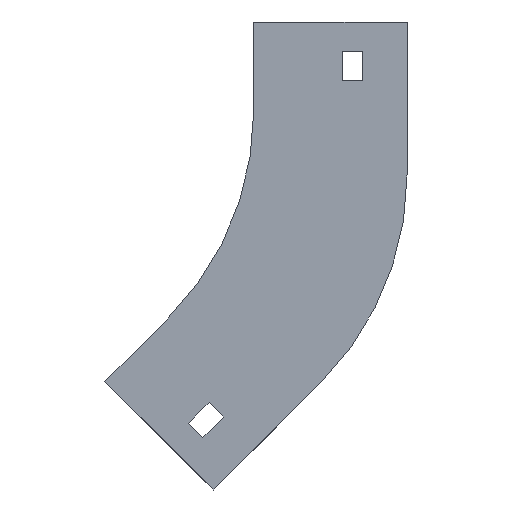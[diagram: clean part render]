
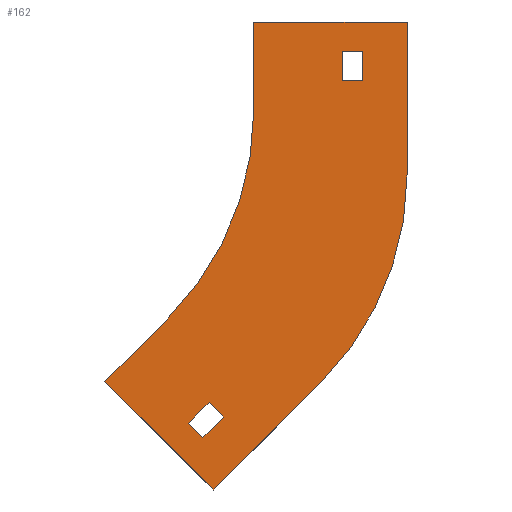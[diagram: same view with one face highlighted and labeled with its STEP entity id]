
A CAD part, left-side view. The second image highlights one B-rep face of the part: STEP entity #162.
In plain terms, the highlighted planar face has unit normal (-1, 0, 0).
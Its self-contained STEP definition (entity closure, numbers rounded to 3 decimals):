
#7 = DIRECTION ( 'NONE',  ( 0., 0., -1. ) ) ;
#52 = EDGE_CURVE ( 'NONE', #338, #132, #952, .T. ) ;
#53 = ORIENTED_EDGE ( 'NONE', *, *, #940, .T. ) ;
#70 = CARTESIAN_POINT ( 'NONE',  ( -202., -30., -20. ) ) ;
#71 = CARTESIAN_POINT ( 'NONE',  ( -202., -30., -10. ) ) ;
#79 = LINE ( 'NONE', #515, #486 ) ;
#85 = ORIENTED_EDGE ( 'NONE', *, *, #611, .F. ) ;
#100 = VECTOR ( 'NONE', #766, 1000. ) ;
#116 = EDGE_CURVE ( 'NONE', #325, #596, #744, .T. ) ;
#132 = VERTEX_POINT ( 'NONE', #1199 ) ;
#162 = ADVANCED_FACE ( 'NONE', ( #1172, #519, #1046 ), #640, .F. ) ;
#165 = ORIENTED_EDGE ( 'NONE', *, *, #880, .T. ) ;
#167 = CARTESIAN_POINT ( 'NONE',  ( -202., -37., -10. ) ) ;
#169 = CARTESIAN_POINT ( 'NONE',  ( -202., 0., -30. ) ) ;
#173 = DIRECTION ( 'NONE',  ( 0., 0.707, -0.707 ) ) ;
#177 = VERTEX_POINT ( 'NONE', #71 ) ;
#197 = DIRECTION ( 'NONE',  ( 0., -0.707, -0.707 ) ) ;
#201 = CARTESIAN_POINT ( 'NONE',  ( -202., 17.269, -141.016 ) ) ;
#202 = VERTEX_POINT ( 'NONE', #1268 ) ;
#213 = LINE ( 'NONE', #884, #990 ) ;
#238 = LINE ( 'NONE', #547, #1207 ) ;
#245 = VERTEX_POINT ( 'NONE', #941 ) ;
#269 = CARTESIAN_POINT ( 'NONE',  ( -202., 22.218, -136.066 ) ) ;
#274 = AXIS2_PLACEMENT_3D ( 'NONE', #446, #1317, #553 ) ;
#283 = VERTEX_POINT ( 'NONE', #1056 ) ;
#294 = LINE ( 'NONE', #729, #580 ) ;
#325 = VERTEX_POINT ( 'NONE', #1063 ) ;
#338 = VERTEX_POINT ( 'NONE', #684 ) ;
#345 = VECTOR ( 'NONE', #626, 1000. ) ;
#346 = ORIENTED_EDGE ( 'NONE', *, *, #649, .F. ) ;
#389 = EDGE_CURVE ( 'NONE', #1137, #923, #574, .T. ) ;
#392 = CIRCLE ( 'NONE', #274, 100. ) ;
#394 = EDGE_LOOP ( 'NONE', ( #462, #521, #1118, #900 ) ) ;
#427 = DIRECTION ( 'NONE',  ( 1., 0., 0. ) ) ;
#431 = DIRECTION ( 'NONE',  ( 0., -1., 0. ) ) ;
#439 = EDGE_CURVE ( 'NONE', #874, #470, #987, .T. ) ;
#440 = VECTOR ( 'NONE', #1354, 1000. ) ;
#446 = CARTESIAN_POINT ( 'NONE',  ( -202., 100., -30. ) ) ;
#462 = ORIENTED_EDGE ( 'NONE', *, *, #697, .F. ) ;
#470 = VERTEX_POINT ( 'NONE', #1115 ) ;
#483 = CARTESIAN_POINT ( 'NONE',  ( -202., -30., -10. ) ) ;
#486 = VECTOR ( 'NONE', #542, 1000. ) ;
#510 = VECTOR ( 'NONE', #965, 1000. ) ;
#515 = CARTESIAN_POINT ( 'NONE',  ( -202., -52., -51.539 ) ) ;
#519 = FACE_BOUND ( 'NONE', #916, .T. ) ;
#521 = ORIENTED_EDGE ( 'NONE', *, *, #389, .F. ) ;
#530 = CARTESIAN_POINT ( 'NONE',  ( -202., 48., -51.539 ) ) ;
#542 = DIRECTION ( 'NONE',  ( 0., 0., -1. ) ) ;
#547 = CARTESIAN_POINT ( 'NONE',  ( -202., 29.289, -100.711 ) ) ;
#553 = DIRECTION ( 'NONE',  ( 0., 0., -1. ) ) ;
#574 = LINE ( 'NONE', #1325, #100 ) ;
#580 = VECTOR ( 'NONE', #963, 1000. ) ;
#591 = DIRECTION ( 'NONE',  ( 0., 0., 1. ) ) ;
#596 = VERTEX_POINT ( 'NONE', #1287 ) ;
#611 = EDGE_CURVE ( 'NONE', #1385, #1146, #645, .T. ) ;
#626 = DIRECTION ( 'NONE',  ( 0., -1., 0. ) ) ;
#630 = LINE ( 'NONE', #1069, #712 ) ;
#640 = PLANE ( 'NONE',  #1077 ) ;
#641 = CARTESIAN_POINT ( 'NONE',  ( -202., -52., 0. ) ) ;
#644 = CARTESIAN_POINT ( 'NONE',  ( -202., 13.733, -158.693 ) ) ;
#645 = LINE ( 'NONE', #1053, #510 ) ;
#649 = EDGE_CURVE ( 'NONE', #132, #245, #79, .T. ) ;
#661 = EDGE_CURVE ( 'NONE', #177, #874, #630, .T. ) ;
#682 = ORIENTED_EDGE ( 'NONE', *, *, #52, .F. ) ;
#684 = CARTESIAN_POINT ( 'NONE',  ( -202., 0., 0. ) ) ;
#689 = CARTESIAN_POINT ( 'NONE',  ( -202., -30., -20. ) ) ;
#691 = VECTOR ( 'NONE', #197, 1000. ) ;
#696 = LINE ( 'NONE', #689, #1162 ) ;
#697 = EDGE_CURVE ( 'NONE', #923, #325, #975, .T. ) ;
#712 = VECTOR ( 'NONE', #431, 1000. ) ;
#729 = CARTESIAN_POINT ( 'NONE',  ( -202., 15.147, -128.995 ) ) ;
#744 = LINE ( 'NONE', #201, #440 ) ;
#747 = ORIENTED_EDGE ( 'NONE', *, *, #1020, .F. ) ;
#750 = EDGE_CURVE ( 'NONE', #1146, #283, #238, .T. ) ;
#752 = ORIENTED_EDGE ( 'NONE', *, *, #1004, .F. ) ;
#761 = EDGE_CURVE ( 'NONE', #283, #1394, #392, .T. ) ;
#766 = DIRECTION ( 'NONE',  ( 0., 0.707, -0.707 ) ) ;
#787 = ORIENTED_EDGE ( 'NONE', *, *, #661, .T. ) ;
#794 = LINE ( 'NONE', #644, #894 ) ;
#803 = AXIS2_PLACEMENT_3D ( 'NONE', #530, #935, #1159 ) ;
#826 = CARTESIAN_POINT ( 'NONE',  ( -202., 13.733, -158.693 ) ) ;
#836 = DIRECTION ( 'NONE',  ( 0., 0., -1. ) ) ;
#837 = EDGE_CURVE ( 'NONE', #1394, #338, #213, .T. ) ;
#874 = VERTEX_POINT ( 'NONE', #167 ) ;
#880 = EDGE_CURVE ( 'NONE', #470, #1278, #696, .T. ) ;
#884 = CARTESIAN_POINT ( 'NONE',  ( -202., 0., 0. ) ) ;
#892 = VECTOR ( 'NONE', #7, 1000. ) ;
#894 = VECTOR ( 'NONE', #173, 1000. ) ;
#900 = ORIENTED_EDGE ( 'NONE', *, *, #116, .F. ) ;
#916 = EDGE_LOOP ( 'NONE', ( #53, #787, #1028, #165 ) ) ;
#921 = ORIENTED_EDGE ( 'NONE', *, *, #761, .F. ) ;
#923 = VERTEX_POINT ( 'NONE', #269 ) ;
#924 = DIRECTION ( 'NONE',  ( 0., 1., 0. ) ) ;
#929 = CARTESIAN_POINT ( 'NONE',  ( -202., 50.503, -121.924 ) ) ;
#935 = DIRECTION ( 'NONE',  ( 1., 0., 0. ) ) ;
#940 = EDGE_CURVE ( 'NONE', #1278, #177, #1037, .T. ) ;
#941 = CARTESIAN_POINT ( 'NONE',  ( -202., -52., -51.539 ) ) ;
#951 = CARTESIAN_POINT ( 'NONE',  ( -202., 100., -30. ) ) ;
#952 = LINE ( 'NONE', #641, #345 ) ;
#962 = EDGE_LOOP ( 'NONE', ( #682, #1120, #921, #1401, #85, #752, #747, #346 ) ) ;
#963 = DIRECTION ( 'NONE',  ( 0., 0.707, 0.707 ) ) ;
#965 = DIRECTION ( 'NONE',  ( 0., 0.707, 0.707 ) ) ;
#975 = LINE ( 'NONE', #1169, #691 ) ;
#987 = LINE ( 'NONE', #1002, #892 ) ;
#990 = VECTOR ( 'NONE', #1105, 1000. ) ;
#1002 = CARTESIAN_POINT ( 'NONE',  ( -202., -37., -10. ) ) ;
#1004 = EDGE_CURVE ( 'NONE', #202, #1385, #794, .T. ) ;
#1020 = EDGE_CURVE ( 'NONE', #245, #202, #1079, .T. ) ;
#1028 = ORIENTED_EDGE ( 'NONE', *, *, #439, .T. ) ;
#1037 = LINE ( 'NONE', #483, #1119 ) ;
#1046 = FACE_BOUND ( 'NONE', #394, .T. ) ;
#1053 = CARTESIAN_POINT ( 'NONE',  ( -202., 50.503, -121.924 ) ) ;
#1056 = CARTESIAN_POINT ( 'NONE',  ( -202., 29.289, -100.711 ) ) ;
#1063 = CARTESIAN_POINT ( 'NONE',  ( -202., 17.269, -141.016 ) ) ;
#1069 = CARTESIAN_POINT ( 'NONE',  ( -202., -30., -10. ) ) ;
#1077 = AXIS2_PLACEMENT_3D ( 'NONE', #951, #427, #836 ) ;
#1079 = CIRCLE ( 'NONE', #803, 100. ) ;
#1105 = DIRECTION ( 'NONE',  ( 0., 0., 1. ) ) ;
#1115 = CARTESIAN_POINT ( 'NONE',  ( -202., -37., -20. ) ) ;
#1118 = ORIENTED_EDGE ( 'NONE', *, *, #1122, .F. ) ;
#1119 = VECTOR ( 'NONE', #591, 1000. ) ;
#1120 = ORIENTED_EDGE ( 'NONE', *, *, #837, .F. ) ;
#1122 = EDGE_CURVE ( 'NONE', #596, #1137, #294, .T. ) ;
#1137 = VERTEX_POINT ( 'NONE', #1386 ) ;
#1146 = VERTEX_POINT ( 'NONE', #929 ) ;
#1159 = DIRECTION ( 'NONE',  ( 0., 0., 1. ) ) ;
#1162 = VECTOR ( 'NONE', #924, 1000. ) ;
#1169 = CARTESIAN_POINT ( 'NONE',  ( -202., 22.218, -136.066 ) ) ;
#1172 = FACE_OUTER_BOUND ( 'NONE', #962, .T. ) ;
#1199 = CARTESIAN_POINT ( 'NONE',  ( -202., -52., 0. ) ) ;
#1207 = VECTOR ( 'NONE', #1211, 1000. ) ;
#1211 = DIRECTION ( 'NONE',  ( 0., -0.707, 0.707 ) ) ;
#1268 = CARTESIAN_POINT ( 'NONE',  ( -202., -22.711, -122.25 ) ) ;
#1278 = VERTEX_POINT ( 'NONE', #70 ) ;
#1287 = CARTESIAN_POINT ( 'NONE',  ( -202., 10.197, -133.945 ) ) ;
#1317 = DIRECTION ( 'NONE',  ( -1., 0., 0. ) ) ;
#1325 = CARTESIAN_POINT ( 'NONE',  ( -202., 22.218, -136.066 ) ) ;
#1354 = DIRECTION ( 'NONE',  ( 0., -0.707, 0.707 ) ) ;
#1385 = VERTEX_POINT ( 'NONE', #826 ) ;
#1386 = CARTESIAN_POINT ( 'NONE',  ( -202., 15.147, -128.995 ) ) ;
#1394 = VERTEX_POINT ( 'NONE', #169 ) ;
#1401 = ORIENTED_EDGE ( 'NONE', *, *, #750, .F. ) ;
